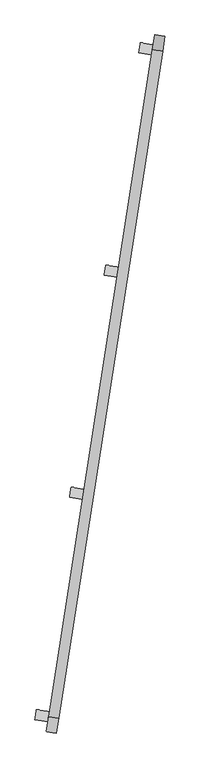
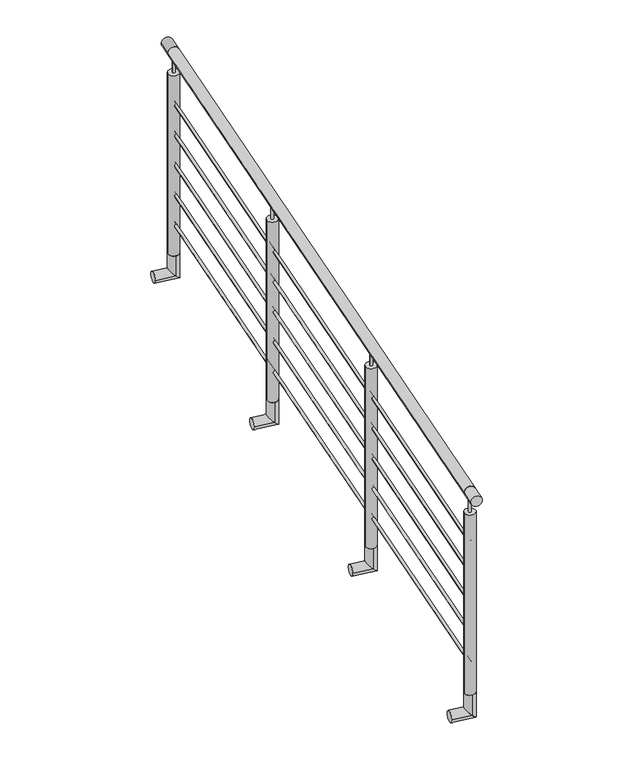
"""IFC4 building model written with IfcOpenShell, lengths in millimetres: railing geometry, Barandal acero inox - sobre ventana."""

from ifc_helpers import new_model, si_unit, point, frame, frame_2d, origin, origin_2d, place, context, project, spatial, circle_curve, ellipse_curve, trimmed, segment, composite_curve, outline, extrude, source, transform, mapped, element, save
from ifc_brep_helpers import plane_surface, cylinder_surface, advanced_brep


def railing_cd86a238(model_context):
    return source(origin(), model_context, "Body", "SolidModel", [
        extrude(outline(composite_curve([segment(trimmed(circle_curve(origin_2d(), 25.4), [point((25.4, 0.0))], [point((-25.4, 0.0))], False, "CARTESIAN"), True, "CONTINUOUS"), segment(trimmed(circle_curve(origin_2d(), 25.4), [point((-25.4, 0.0))], [point((25.4, 0.0))], False, "CARTESIAN"), True, "CONTINUOUS")], self_intersect=False)), frame((-24555.830367, -78316.1255501, 7400.0), z_axis=(0.15400987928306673, 0.9880693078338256, 0.0), x_axis=(0.9880693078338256, -0.15400987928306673, 0.0)), (0.0, 0.0, 1.0), 3355.0000009),
        extrude(outline(composite_curve([segment(trimmed(circle_curve(origin_2d(), 6.35), [point((6.35, 0.0))], [point((-6.35, 0.0))], False, "CARTESIAN"), True, "CONTINUOUS"), segment(trimmed(circle_curve(origin_2d(), 6.35), [point((-6.35, 0.0))], [point((6.35, 0.0))], False, "CARTESIAN"), True, "CONTINUOUS")], self_intersect=False)), frame((-24555.830367, -78316.1255501, 7150.0), z_axis=(0.15400987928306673, 0.9880693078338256, 0.0), x_axis=(0.9880693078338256, -0.15400987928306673, 0.0)), (0.0, 0.0, 1.0), 3355.0000009),
        extrude(outline(composite_curve([segment(trimmed(circle_curve(origin_2d(), 6.35), [point((6.35, 0.0))], [point((-6.35, 0.0))], False, "CARTESIAN"), True, "CONTINUOUS"), segment(trimmed(circle_curve(origin_2d(), 6.35), [point((-6.35, 0.0))], [point((6.35, 0.0))], False, "CARTESIAN"), True, "CONTINUOUS")], self_intersect=False)), frame((-24555.830367, -78316.1255501, 7000.0), z_axis=(0.15400987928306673, 0.9880693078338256, 0.0), x_axis=(0.9880693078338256, -0.15400987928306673, 0.0)), (0.0, 0.0, 1.0), 3355.0000009),
        extrude(outline(composite_curve([segment(trimmed(circle_curve(origin_2d(), 6.35), [point((6.35, 0.0))], [point((-6.35, 0.0))], False, "CARTESIAN"), True, "CONTINUOUS"), segment(trimmed(circle_curve(origin_2d(), 6.35), [point((-6.35, 0.0))], [point((6.35, 0.0))], False, "CARTESIAN"), True, "CONTINUOUS")], self_intersect=False)), frame((-24555.830367, -78316.1255501, 6850.0), z_axis=(0.15400987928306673, 0.9880693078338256, 0.0), x_axis=(0.9880693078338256, -0.15400987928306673, 0.0)), (0.0, 0.0, 1.0), 3355.0000009),
        extrude(outline(composite_curve([segment(trimmed(circle_curve(origin_2d(), 6.35), [point((6.35, 0.0))], [point((-6.35, 0.0))], False, "CARTESIAN"), True, "CONTINUOUS"), segment(trimmed(circle_curve(origin_2d(), 6.35), [point((-6.35, 0.0))], [point((6.35, 0.0))], False, "CARTESIAN"), True, "CONTINUOUS")], self_intersect=False)), frame((-24555.830367, -78316.1255501, 6700.0), z_axis=(0.15400987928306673, 0.9880693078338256, 0.0), x_axis=(0.9880693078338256, -0.15400987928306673, 0.0)), (0.0, 0.0, 1.0), 3355.0000009),
        extrude(outline(composite_curve([segment(trimmed(circle_curve(origin_2d(), 6.35), [point((6.35, 0.0))], [point((-6.35, 0.0))], False, "CARTESIAN"), True, "CONTINUOUS"), segment(trimmed(circle_curve(origin_2d(), 6.35), [point((-6.35, 0.0))], [point((6.35, 0.0))], False, "CARTESIAN"), True, "CONTINUOUS")], self_intersect=False)), frame((-24555.830367, -78316.1255501, 6550.0), z_axis=(0.15400987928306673, 0.9880693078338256, 0.0), x_axis=(0.9880693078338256, -0.15400987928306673, 0.0)), (0.0, 0.0, 1.0), 3355.0000009),
        advanced_brep(
        [(-24215.2734545, -76131.2408247, 6400.0), (-24207.4497526, -76081.0469039, 6400.0), (-24207.4497526, -76081.0469039, 6300.0), (-24215.2734545, -76131.2408247, 6300.0), (-24304.1996922, -76117.3799356, 6300.0), (-24296.3759903, -76067.1860147, 6300.0)],
        [
            (0, 1, circle_curve(frame((-24211.3616036, -76106.1438643, 6400.0), z_axis=(0.0, 0.0, 1.0), x_axis=(0.15400987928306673, 0.9880693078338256, 0.0)), 25.4)),
            (1, 0, circle_curve(frame((-24211.3616036, -76106.1438643, 6400.0), z_axis=(0.0, 0.0, 1.0), x_axis=(0.15400987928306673, 0.9880693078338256, 0.0)), 25.4)),
            (1, 2),
            (2, 3, ellipse_curve(frame((-24211.3616036, -76106.1438643, 6300.0), z_axis=(0.6986705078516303, -0.10890143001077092, 0.7071067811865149), x_axis=(-0.6986705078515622, 0.10890143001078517, 0.7071067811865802)), 35.9210245, 25.4)),
            (3, 0),
            (3, 2, ellipse_curve(frame((-24211.3616036, -76106.1438643, 6300.0), z_axis=(0.6986705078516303, -0.10890143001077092, 0.7071067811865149), x_axis=(-0.6986705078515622, 0.10890143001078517, 0.7071067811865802)), 35.9210245, 25.4)),
            (4, 5, circle_curve(frame((-24300.2878413, -76092.2829752, 6300.0), z_axis=(-0.9880693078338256, 0.15400987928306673, 0.0), x_axis=(0.15400987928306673, 0.9880693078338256, 0.0)), 25.4)),
            (5, 4, circle_curve(frame((-24300.2878413, -76092.2829752, 6300.0), z_axis=(-0.9880693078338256, 0.15400987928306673, 0.0), x_axis=(0.15400987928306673, 0.9880693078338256, 0.0)), 25.4)),
            (2, 5),
            (4, 3),
        ],
        [
            plane_surface(frame((-24211.3616036, -76106.1438643, 6400.0), z_axis=(0.0, 0.0, 1.0), x_axis=(0.15400987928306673, 0.9880693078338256, 0.0))),
            cylinder_surface(frame((-24211.3616036, -76106.1438643, 6400.0), z_axis=(0.0, 0.0, 1.0), x_axis=(0.15400987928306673, 0.9880693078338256, 0.0)), 25.4),
            plane_surface(frame((-24300.2878413, -76092.2829752, 6300.0), z_axis=(-0.9880693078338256, 0.15400987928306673, 0.0), x_axis=(0.15400987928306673, 0.9880693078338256, 0.0))),
            cylinder_surface(frame((-24211.3616036, -76106.1438643, 6300.0), z_axis=(0.9880693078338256, -0.15400987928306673, 0.0), x_axis=(0.15400987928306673, 0.9880693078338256, 0.0)), 25.4),
        ],
        [
            (0, [[1, 2]]),
            (1, [[3, 4, 5, -2]]),
            (1, [[-5, 6, -3, -1]]),
            (2, [[7, 8]]),
            (3, [[9, -7, 10, -4]]),
            (3, [[-10, -8, -9, -6]]),
        ],
    ),
        extrude(outline(composite_curve([segment(trimmed(circle_curve(frame_2d((-24211.3616036, -76106.1438643)), 6.35), [point((-24217.6358437, -76105.1659016))], [point((-24205.0873635, -76107.121827))], False, "CARTESIAN"), True, "CONTINUOUS"), segment(trimmed(circle_curve(frame_2d((-24211.3616036, -76106.1438643)), 6.35), [point((-24205.0873635, -76107.121827))], [point((-24217.6358437, -76105.1659016))], False, "CARTESIAN"), True, "CONTINUOUS")], self_intersect=False)), frame((0.0, 0.0, 7299.6), z_axis=(0.0, 0.0, 1.0), x_axis=(1.0, 0.0, 0.0)), (0.0, 0.0, 1.0), 75.0),
        extrude(outline(composite_curve([segment(trimmed(circle_curve(frame_2d((-24211.3616036, -76106.1438643)), 25.4), [point((-24236.458564, -76102.2320134))], [point((-24186.2646431, -76110.0557152))], False, "CARTESIAN"), True, "CONTINUOUS"), segment(trimmed(circle_curve(frame_2d((-24211.3616036, -76106.1438643)), 25.4), [point((-24186.2646431, -76110.0557152))], [point((-24236.458564, -76102.2320134))], False, "CARTESIAN"), True, "CONTINUOUS")], self_intersect=False)), frame((0.0, 0.0, 6400.0), z_axis=(0.0, 0.0, 1.0), x_axis=(1.0, 0.0, 0.0)), (0.0, 0.0, 1.0), 899.6),
        advanced_brep(
        [(-24387.5078362, -77236.2316676, 6400.0), (-24379.6841343, -77186.0377468, 6400.0), (-24379.6841343, -77186.0377468, 6300.0), (-24387.5078362, -77236.2316676, 6300.0), (-24476.4340739, -77222.3707785, 6300.0), (-24468.610372, -77172.1768577, 6300.0)],
        [
            (0, 1, circle_curve(frame((-24383.5959853, -77211.1347072, 6400.0), z_axis=(0.0, 0.0, 1.0), x_axis=(0.15400987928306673, 0.9880693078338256, 0.0)), 25.4)),
            (1, 0, circle_curve(frame((-24383.5959853, -77211.1347072, 6400.0), z_axis=(0.0, 0.0, 1.0), x_axis=(0.15400987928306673, 0.9880693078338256, 0.0)), 25.4)),
            (1, 2),
            (2, 3, ellipse_curve(frame((-24383.5959853, -77211.1347072, 6300.0), z_axis=(0.6986705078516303, -0.10890143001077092, 0.7071067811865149), x_axis=(-0.6986705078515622, 0.10890143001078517, 0.7071067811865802)), 35.9210245, 25.4)),
            (3, 0),
            (3, 2, ellipse_curve(frame((-24383.5959853, -77211.1347072, 6300.0), z_axis=(0.6986705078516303, -0.10890143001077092, 0.7071067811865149), x_axis=(-0.6986705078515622, 0.10890143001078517, 0.7071067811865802)), 35.9210245, 25.4)),
            (4, 5, circle_curve(frame((-24472.522223, -77197.2738181, 6300.0), z_axis=(-0.9880693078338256, 0.15400987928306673, 0.0), x_axis=(0.15400987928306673, 0.9880693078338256, 0.0)), 25.4)),
            (5, 4, circle_curve(frame((-24472.522223, -77197.2738181, 6300.0), z_axis=(-0.9880693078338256, 0.15400987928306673, 0.0), x_axis=(0.15400987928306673, 0.9880693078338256, 0.0)), 25.4)),
            (2, 5),
            (4, 3),
        ],
        [
            plane_surface(frame((-24383.5959853, -77211.1347072, 6400.0), z_axis=(0.0, 0.0, 1.0), x_axis=(0.15400987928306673, 0.9880693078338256, 0.0))),
            cylinder_surface(frame((-24383.5959853, -77211.1347072, 6400.0), z_axis=(0.0, 0.0, 1.0), x_axis=(0.15400987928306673, 0.9880693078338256, 0.0)), 25.4),
            plane_surface(frame((-24472.522223, -77197.2738181, 6300.0), z_axis=(-0.9880693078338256, 0.15400987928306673, 0.0), x_axis=(0.15400987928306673, 0.9880693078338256, 0.0))),
            cylinder_surface(frame((-24383.5959853, -77211.1347072, 6300.0), z_axis=(0.9880693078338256, -0.15400987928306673, 0.0), x_axis=(0.15400987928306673, 0.9880693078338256, 0.0)), 25.4),
        ],
        [
            (0, [[1, 2]]),
            (1, [[3, 4, 5, -2]]),
            (1, [[-5, 6, -3, -1]]),
            (2, [[7, 8]]),
            (3, [[9, -7, 10, -4]]),
            (3, [[-10, -8, -9, -6]]),
        ],
    ),
        extrude(outline(composite_curve([segment(trimmed(circle_curve(frame_2d((-24383.5959853, -77211.1347072)), 6.35), [point((-24389.8702254, -77210.1567445))], [point((-24377.3217452, -77212.1126699))], False, "CARTESIAN"), True, "CONTINUOUS"), segment(trimmed(circle_curve(frame_2d((-24383.5959853, -77211.1347072)), 6.35), [point((-24377.3217452, -77212.1126699))], [point((-24389.8702254, -77210.1567445))], False, "CARTESIAN"), True, "CONTINUOUS")], self_intersect=False)), frame((0.0, 0.0, 7299.6), z_axis=(0.0, 0.0, 1.0), x_axis=(1.0, 0.0, 0.0)), (0.0, 0.0, 1.0), 75.0),
        extrude(outline(composite_curve([segment(trimmed(circle_curve(frame_2d((-24383.5959853, -77211.1347072)), 25.4), [point((-24408.6929457, -77207.2228563))], [point((-24358.4990249, -77215.0465581))], False, "CARTESIAN"), True, "CONTINUOUS"), segment(trimmed(circle_curve(frame_2d((-24383.5959853, -77211.1347072)), 25.4), [point((-24358.4990249, -77215.0465581))], [point((-24408.6929457, -77207.2228563))], False, "CARTESIAN"), True, "CONTINUOUS")], self_intersect=False)), frame((0.0, 0.0, 6400.0), z_axis=(0.0, 0.0, 1.0), x_axis=(1.0, 0.0, 0.0)), (0.0, 0.0, 1.0), 899.6),
        advanced_brep(
        [(-24043.0390728, -75026.2499818, 6400.0), (-24035.2153709, -74976.056061, 6400.0), (-24035.2153709, -74976.056061, 6300.0), (-24043.0390728, -75026.2499818, 6300.0), (-24131.9653105, -75012.3890927, 6300.0), (-24124.1416086, -74962.1951718, 6300.0)],
        [
            (0, 1, circle_curve(frame((-24039.1272218, -75001.1530214, 6400.0), z_axis=(0.0, 0.0, 1.0), x_axis=(0.15400987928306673, 0.9880693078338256, 0.0)), 25.4)),
            (1, 0, circle_curve(frame((-24039.1272218, -75001.1530214, 6400.0), z_axis=(0.0, 0.0, 1.0), x_axis=(0.15400987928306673, 0.9880693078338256, 0.0)), 25.4)),
            (1, 2),
            (2, 3, ellipse_curve(frame((-24039.1272218, -75001.1530214, 6300.0), z_axis=(0.6986705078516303, -0.10890143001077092, 0.7071067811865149), x_axis=(-0.6986705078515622, 0.10890143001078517, 0.7071067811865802)), 35.9210245, 25.4)),
            (3, 0),
            (3, 2, ellipse_curve(frame((-24039.1272218, -75001.1530214, 6300.0), z_axis=(0.6986705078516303, -0.10890143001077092, 0.7071067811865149), x_axis=(-0.6986705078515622, 0.10890143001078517, 0.7071067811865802)), 35.9210245, 25.4)),
            (4, 5, circle_curve(frame((-24128.0534596, -74987.2921323, 6300.0), z_axis=(-0.9880693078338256, 0.15400987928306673, 0.0), x_axis=(0.15400987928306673, 0.9880693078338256, 0.0)), 25.4)),
            (5, 4, circle_curve(frame((-24128.0534596, -74987.2921323, 6300.0), z_axis=(-0.9880693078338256, 0.15400987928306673, 0.0), x_axis=(0.15400987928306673, 0.9880693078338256, 0.0)), 25.4)),
            (2, 5),
            (4, 3),
        ],
        [
            plane_surface(frame((-24039.1272218, -75001.1530214, 6400.0), z_axis=(0.0, 0.0, 1.0), x_axis=(0.15400987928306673, 0.9880693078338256, 0.0))),
            cylinder_surface(frame((-24039.1272218, -75001.1530214, 6400.0), z_axis=(0.0, 0.0, 1.0), x_axis=(0.15400987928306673, 0.9880693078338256, 0.0)), 25.4),
            plane_surface(frame((-24128.0534596, -74987.2921323, 6300.0), z_axis=(-0.9880693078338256, 0.15400987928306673, 0.0), x_axis=(0.15400987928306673, 0.9880693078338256, 0.0))),
            cylinder_surface(frame((-24039.1272218, -75001.1530214, 6300.0), z_axis=(0.9880693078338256, -0.15400987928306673, 0.0), x_axis=(0.15400987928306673, 0.9880693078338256, 0.0)), 25.4),
        ],
        [
            (0, [[1, 2]]),
            (1, [[3, 4, 5, -2]]),
            (1, [[-5, 6, -3, -1]]),
            (2, [[7, 8]]),
            (3, [[9, -7, 10, -4]]),
            (3, [[-10, -8, -9, -6]]),
        ],
    ),
        extrude(outline(composite_curve([segment(trimmed(circle_curve(frame_2d((0.0, 25.4)), 25.4), [point((0.0, 50.8000001))], [point((0.0, 0.0))], False, "CARTESIAN"), True, "CONTINUOUS"), segment(trimmed(circle_curve(frame_2d((0.0, 25.4)), 25.4), [point((0.0, 0.0))], [point((0.0, 50.8000001))], False, "CARTESIAN"), True, "CONTINUOUS")], self_intersect=False)), frame((-24014.0302614, -75005.0648723, 7400.0), z_axis=(0.15400987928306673, 0.9880693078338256, 0.0), x_axis=(0.0, 0.0, -1.0)), (0.0, 0.0, 1.0), 75.0),
        extrude(outline(composite_curve([segment(trimmed(circle_curve(frame_2d((-24039.1272218, -75001.1530214)), 6.35), [point((-24045.401462, -75000.1750587))], [point((-24032.8529817, -75002.1309841))], False, "CARTESIAN"), True, "CONTINUOUS"), segment(trimmed(circle_curve(frame_2d((-24039.1272218, -75001.1530214)), 6.35), [point((-24032.8529817, -75002.1309841))], [point((-24045.401462, -75000.1750587))], False, "CARTESIAN"), True, "CONTINUOUS")], self_intersect=False)), frame((0.0, 0.0, 7299.6), z_axis=(0.0, 0.0, 1.0), x_axis=(1.0, 0.0, 0.0)), (0.0, 0.0, 1.0), 75.0),
        extrude(outline(composite_curve([segment(trimmed(circle_curve(frame_2d((-24039.1272218, -75001.1530214)), 25.4), [point((-24064.2241823, -74997.2411705))], [point((-24014.0302614, -75005.0648723))], False, "CARTESIAN"), True, "CONTINUOUS"), segment(trimmed(circle_curve(frame_2d((-24039.1272218, -75001.1530214)), 25.4), [point((-24014.0302614, -75005.0648723))], [point((-24064.2241823, -74997.2411705))], False, "CARTESIAN"), True, "CONTINUOUS")], self_intersect=False)), frame((0.0, 0.0, 6400.0), z_axis=(0.0, 0.0, 1.0), x_axis=(1.0, 0.0, 0.0)), (0.0, 0.0, 1.0), 899.6),
        advanced_brep(
        [(-24559.7422179, -78341.2225105, 6400.0), (-24551.9185161, -78291.0285897, 6400.0), (-24551.9185161, -78291.0285897, 6300.0), (-24559.7422179, -78341.2225105, 6300.0), (-24648.6684556, -78327.3616214, 6300.0), (-24640.8447538, -78277.1677006, 6300.0)],
        [
            (0, 1, circle_curve(frame((-24555.830367, -78316.1255501, 6400.0), z_axis=(0.0, 0.0, 1.0), x_axis=(0.15400987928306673, 0.9880693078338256, 0.0)), 25.4)),
            (1, 0, circle_curve(frame((-24555.830367, -78316.1255501, 6400.0), z_axis=(0.0, 0.0, 1.0), x_axis=(0.15400987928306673, 0.9880693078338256, 0.0)), 25.4)),
            (1, 2),
            (2, 3, ellipse_curve(frame((-24555.830367, -78316.1255501, 6300.0), z_axis=(0.6986705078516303, -0.10890143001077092, 0.7071067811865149), x_axis=(-0.6986705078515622, 0.10890143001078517, 0.7071067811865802)), 35.9210245, 25.4)),
            (3, 0),
            (3, 2, ellipse_curve(frame((-24555.830367, -78316.1255501, 6300.0), z_axis=(0.6986705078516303, -0.10890143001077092, 0.7071067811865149), x_axis=(-0.6986705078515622, 0.10890143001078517, 0.7071067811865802)), 35.9210245, 25.4)),
            (4, 5, circle_curve(frame((-24644.7566047, -78302.264661, 6300.0), z_axis=(-0.9880693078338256, 0.15400987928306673, 0.0), x_axis=(0.15400987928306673, 0.9880693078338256, 0.0)), 25.4)),
            (5, 4, circle_curve(frame((-24644.7566047, -78302.264661, 6300.0), z_axis=(-0.9880693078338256, 0.15400987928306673, 0.0), x_axis=(0.15400987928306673, 0.9880693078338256, 0.0)), 25.4)),
            (2, 5),
            (4, 3),
        ],
        [
            plane_surface(frame((-24555.830367, -78316.1255501, 6400.0), z_axis=(0.0, 0.0, 1.0), x_axis=(0.15400987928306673, 0.9880693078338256, 0.0))),
            cylinder_surface(frame((-24555.830367, -78316.1255501, 6400.0), z_axis=(0.0, 0.0, 1.0), x_axis=(0.15400987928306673, 0.9880693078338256, 0.0)), 25.4),
            plane_surface(frame((-24644.7566047, -78302.264661, 6300.0), z_axis=(-0.9880693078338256, 0.15400987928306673, 0.0), x_axis=(0.15400987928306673, 0.9880693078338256, 0.0))),
            cylinder_surface(frame((-24555.830367, -78316.1255501, 6300.0), z_axis=(0.9880693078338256, -0.15400987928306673, 0.0), x_axis=(0.15400987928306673, 0.9880693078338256, 0.0)), 25.4),
        ],
        [
            (0, [[1, 2]]),
            (1, [[3, 4, 5, -2]]),
            (1, [[-5, 6, -3, -1]]),
            (2, [[7, 8]]),
            (3, [[9, -7, 10, -4]]),
            (3, [[-10, -8, -9, -6]]),
        ],
    ),
        extrude(outline(composite_curve([segment(trimmed(circle_curve(frame_2d((0.0, 25.4)), 25.4), [point((0.0, 50.8000001))], [point((0.0, 0.0))], False, "CARTESIAN"), True, "CONTINUOUS"), segment(trimmed(circle_curve(frame_2d((0.0, 25.4)), 25.4), [point((0.0, 0.0))], [point((0.0, 50.8000001))], False, "CARTESIAN"), True, "CONTINUOUS")], self_intersect=False)), frame((-24542.2841475, -78394.1425991, 7400.0), z_axis=(0.15400987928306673, 0.9880693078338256, 0.0), x_axis=(0.0, 0.0, -1.0)), (0.0, 0.0, 1.0), 75.0),
        extrude(outline(composite_curve([segment(trimmed(circle_curve(frame_2d((-24555.830367, -78316.1255501)), 6.35), [point((-24562.1046071, -78315.1475874))], [point((-24549.5561269, -78317.1035128))], False, "CARTESIAN"), True, "CONTINUOUS"), segment(trimmed(circle_curve(frame_2d((-24555.830367, -78316.1255501)), 6.35), [point((-24549.5561269, -78317.1035128))], [point((-24562.1046071, -78315.1475874))], False, "CARTESIAN"), True, "CONTINUOUS")], self_intersect=False)), frame((0.0, 0.0, 7299.6), z_axis=(0.0, 0.0, 1.0), x_axis=(1.0, 0.0, 0.0)), (0.0, 0.0, 1.0), 75.0),
        extrude(outline(composite_curve([segment(trimmed(circle_curve(frame_2d((-24555.830367, -78316.1255501)), 25.4), [point((-24580.9273274, -78312.2136992))], [point((-24530.7334066, -78320.037401))], False, "CARTESIAN"), True, "CONTINUOUS"), segment(trimmed(circle_curve(frame_2d((-24555.830367, -78316.1255501)), 25.4), [point((-24530.7334066, -78320.037401))], [point((-24580.9273274, -78312.2136992))], False, "CARTESIAN"), True, "CONTINUOUS")], self_intersect=False)), frame((0.0, 0.0, 6400.0), z_axis=(0.0, 0.0, 1.0), x_axis=(1.0, 0.0, 0.0)), (0.0, 0.0, 1.0), 899.6),
    ])


if __name__ == "__main__":
    model = new_model("IFC4")
    model_context = context("Model", 3, world=origin())
    ifc_project = project(units=[si_unit("LENGTHUNIT", "METRE", prefix="MILLI")], contexts=[model_context])
    site = spatial("IfcSite", under=ifc_project)
    building = spatial("IfcBuilding", under=site)
    placement = place(None, origin())
    railing_shape = railing_cd86a238(model_context)
    element("IfcRailing", 1, ObjectType="Barandal acero inox - sobre ventana", at=placement, inside=building, context=model_context, shape_type="MappedRepresentation", body=[
        mapped(railing_shape, transform((0.0, 0.0, 0.0), x_axis=(1.0, 0.0, 0.0), y_axis=(0.0, 1.0, 0.0), z_axis=(0.0, 0.0, 1.0))),
    ])
    save(model, "model.ifc")
